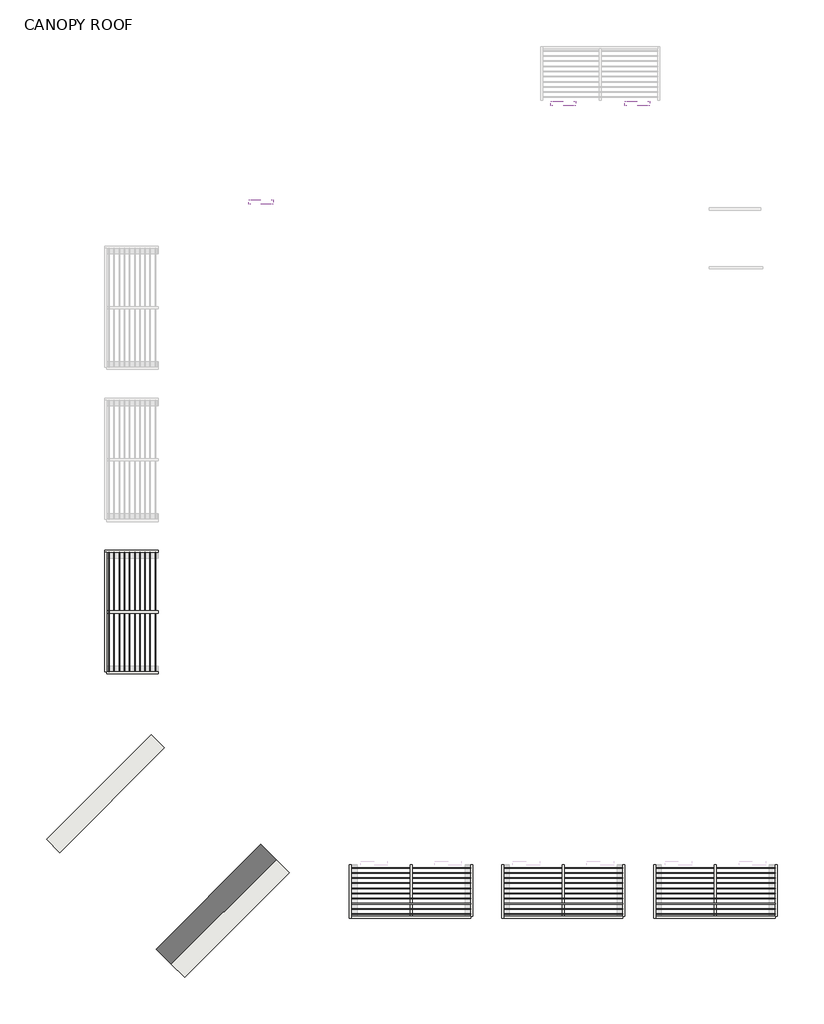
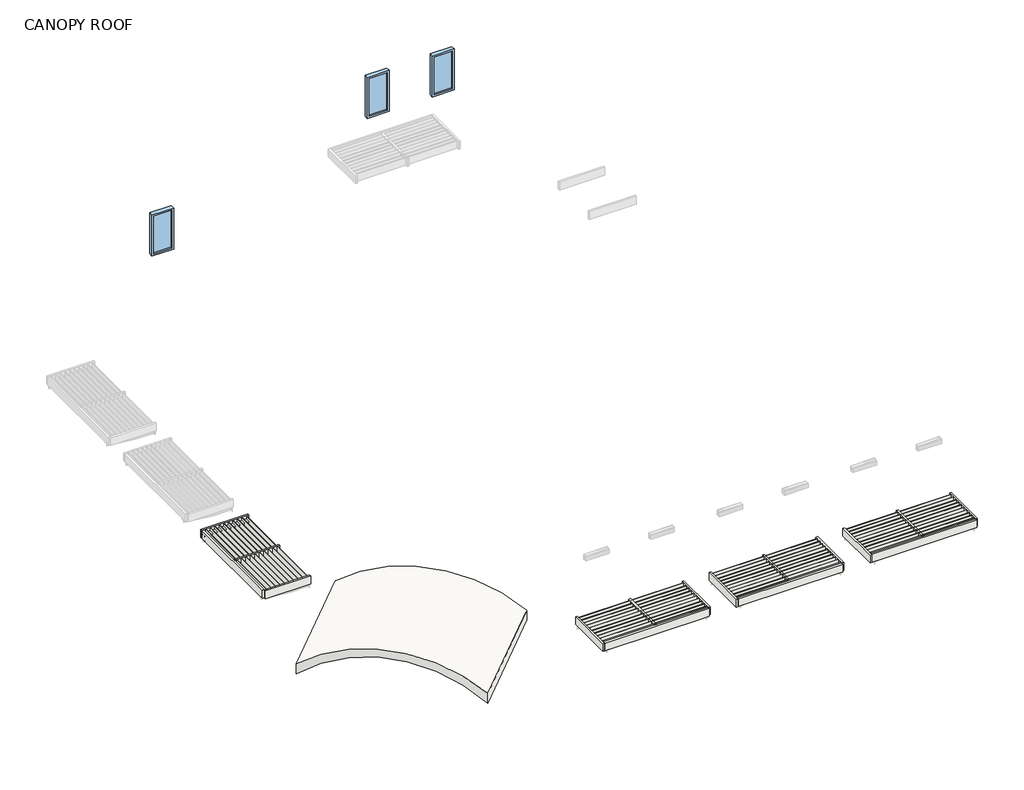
# One storey, part 1 of 2: 57 roofs, 3 windows.
"""IFC4 building model written with IfcOpenShell, lengths in millimetres."""

import ifcopenshell
import ifcopenshell.guid

model = None  # the IFC model being written
_history = None  # IfcOwnerHistory: only IFC2X3 demands one
_inside = {}  # id of a spatial element -> (the spatial element, [elements in it])
_under = {}  # id of a project, library or spatial element -> (it, [spatial elements below it])
_declared = {}  # id of a project -> (the project, [libraries it declares])
_typed = {}  # id of a type object -> (the type object, [elements of that type])
_made_of = {}  # id of a material, layer set ... -> (it, [elements and type objects made of it])


def new_model(schema):
    """Start an empty IFC model of exactly this schema.

    Asked for "IFC4X3", IfcOpenShell would pick the latest addendum, in which some entities
    have other attributes; the version numbers below select the first issue.
    IFC2X3 requires an IfcOwnerHistory on every rooted entity: one is made here for all.
    """
    global model, _history
    if schema == "IFC4X3":
        model = ifcopenshell.file(schema_version=(4, 3, 0, 0))
    else:
        model = ifcopenshell.file(schema=schema)
    _inside.clear()
    _under.clear()
    _declared.clear()
    _typed.clear()
    _made_of.clear()
    _history = None
    if model.schema == "IFC2X3":
        org = make("IfcOrganization", Name="unknown")
        user = make(
            "IfcPersonAndOrganization",
            ThePerson=make("IfcPerson", FamilyName="unknown"),
            TheOrganization=org,
        )
        app = make(
            "IfcApplication",
            ApplicationDeveloper=org,
            Version="unknown",
            ApplicationFullName="unknown",
            ApplicationIdentifier="unknown",
        )
        _history = make(
            "IfcOwnerHistory",
            OwningUser=user,
            OwningApplication=app,
            ChangeAction="ADDED",
            CreationDate=0,
        )
    return model


def make(cls, **values):
    """One entity of the class cls with the attributes given. An attribute that is None is left unset."""
    return model.create_entity(
        cls, **{name: value for name, value in values.items() if value is not None}
    )


def rooted(cls, **values):
    """An entity with a GlobalId (a new one), such as an element, a storey or a relation."""
    return make(cls, GlobalId=ifcopenshell.guid.new(), OwnerHistory=_history, **values)


def si_unit(unit_type, name, prefix=None):
    """IfcSIUnit, for example si_unit("LENGTHUNIT", "METRE", prefix="MILLI")."""
    return make("IfcSIUnit", UnitType=unit_type, Prefix=prefix, Name=name)


def assignment(units):
    """IfcUnitAssignment: the units of a project."""
    return None if units is None else make("IfcUnitAssignment", Units=units)


def point(xyz):
    """IfcCartesianPoint."""
    return None if xyz is None else make("IfcCartesianPoint", Coordinates=xyz)


def direction(xyz):
    """IfcDirection."""
    return None if xyz is None else make("IfcDirection", DirectionRatios=xyz)


def frame(location, z_axis=None, x_axis=None):
    """IfcAxis2Placement3D, a coordinate frame: its origin and axes. An axis left out is left unset."""
    return make(
        "IfcAxis2Placement3D",
        Location=point(location),
        Axis=direction(z_axis),
        RefDirection=direction(x_axis),
    )


def frame_2d(location, x_axis=None):
    """IfcAxis2Placement2D, a coordinate frame in the plane: its origin and x axis."""
    return make(
        "IfcAxis2Placement2D", Location=point(location), RefDirection=direction(x_axis)
    )


def origin():
    """The frame at (0, 0, 0) with its axes left unset."""
    return frame((0.0, 0.0, 0.0))


def place(relative_to, where):
    """IfcLocalPlacement: puts the frame where relative to a parent placement (None: the world)."""
    return make(
        "IfcLocalPlacement", PlacementRelTo=relative_to, RelativePlacement=where
    )


def context(
    kind, dimensions, precision=None, world=None, true_north=None, identifier=None
):
    """IfcGeometricRepresentationContext, for example the 3D "Model" context."""
    return make(
        "IfcGeometricRepresentationContext",
        ContextIdentifier=identifier,
        ContextType=kind,
        CoordinateSpaceDimension=dimensions,
        Precision=precision,
        WorldCoordinateSystem=world,
        TrueNorth=true_north,
    )


def project(units=None, contexts=None):
    """IfcProject with its units and contexts."""
    return rooted(
        "IfcProject",
        Name="project",
        RepresentationContexts=contexts,
        UnitsInContext=assignment(units),
    )


def spatial(cls, under=None, at=None, **own):
    """A site, building, storey or space (cls), placed at a placement, below another one or the project."""
    s = rooted(cls, ObjectPlacement=at, **own)
    if under is not None:
        _under.setdefault(under.id(), (under, []))[1].append(s)
    return s


def polyline(points):
    """IfcPolyline through the points."""
    return make("IfcPolyline", Points=[point(p) for p in points])


def circle_curve(where, radius):
    """IfcCircle in the frame where."""
    return make("IfcCircle", Position=where, Radius=radius)


def trimmed(basis, trim1, trim2, sense, master):
    """IfcTrimmedCurve: the piece of a basis curve between two trims."""
    return make(
        "IfcTrimmedCurve",
        BasisCurve=basis,
        Trim1=trim1,
        Trim2=trim2,
        SenseAgreement=sense,
        MasterRepresentation=master,
    )


def segment(curve, same_sense, transition):
    """IfcCompositeCurveSegment."""
    return make(
        "IfcCompositeCurveSegment",
        Transition=transition,
        SameSense=same_sense,
        ParentCurve=curve,
    )


def composite_curve(segments, self_intersect=None):
    """IfcCompositeCurve: segments joined end to end."""
    return make("IfcCompositeCurve", Segments=segments, SelfIntersect=self_intersect)


def outline(outer, holes=None, kind="AREA"):
    """IfcArbitraryClosedProfileDef: a profile drawn as a closed curve; with holes, ...WithVoids."""
    if holes is None:
        return make("IfcArbitraryClosedProfileDef", ProfileType=kind, OuterCurve=outer)
    return make(
        "IfcArbitraryProfileDefWithVoids",
        ProfileType=kind,
        OuterCurve=outer,
        InnerCurves=holes,
    )


def extrude(swept, where, along, depth):
    """IfcExtrudedAreaSolid: the profile swept, set in the frame where, extruded along a direction by depth."""
    return make(
        "IfcExtrudedAreaSolid",
        SweptArea=swept,
        Position=where,
        ExtrudedDirection=direction(along),
        Depth=depth,
    )


def shape(context_of_items, identifier, shape_type, items):
    """IfcShapeRepresentation: the items that make up one representation, for example the "Body"."""
    return make(
        "IfcShapeRepresentation",
        ContextOfItems=context_of_items,
        RepresentationIdentifier=identifier,
        RepresentationType=shape_type,
        Items=items,
    )


def source(mapping_origin, context_of_items, identifier, shape_type, items):
    """IfcRepresentationMap: a shape defined once, which mapped items show again and again."""
    return make(
        "IfcRepresentationMap",
        MappingOrigin=mapping_origin,
        MappedRepresentation=shape(context_of_items, identifier, shape_type, items),
    )


def transform(
    local_origin,
    x_axis=None,
    y_axis=None,
    z_axis=None,
    scale=None,
    scale2=None,
    scale3=None,
    uniform=True,
):
    """IfcCartesianTransformationOperator3D, or its non-uniform kind. x_axis, y_axis, z_axis: its Axis1, 2, 3."""
    if uniform:
        return make(
            "IfcCartesianTransformationOperator3D",
            Axis1=direction(x_axis),
            Axis2=direction(y_axis),
            LocalOrigin=point(local_origin),
            Scale=scale,
            Axis3=direction(z_axis),
        )
    return make(
        "IfcCartesianTransformationOperator3DnonUniform",
        Axis1=direction(x_axis),
        Axis2=direction(y_axis),
        LocalOrigin=point(local_origin),
        Scale=scale,
        Axis3=direction(z_axis),
        Scale2=scale2,
        Scale3=scale3,
    )


def mapped(mapping_source, mapping_target):
    """IfcMappedItem: shows the shape of a source again, moved by a transform."""
    return make(
        "IfcMappedItem", MappingSource=mapping_source, MappingTarget=mapping_target
    )


def made_of(thing, what):
    """Note that an element or type object is made of a material, layer set ...; save() writes the relation."""
    if what is not None:
        _made_of.setdefault(what.id(), (what, []))[1].append(thing)
    return thing


def element(
    cls,
    number,
    at=None,
    inside=None,
    cuts=None,
    type_object=None,
    material=None,
    context=None,
    identifier="Body",
    shape_type=None,
    held_by="IfcProductDefinitionShape",
    body=None,
    shapes=None,
    **own,
):
    """One element of the class cls, such as IfcWall. Its Tag is "e" and its number.

    at: its placement. inside: the storey or other place that contains it. cuts: it is an
    opening in that element (IfcRelVoidsElement). A single representation is given by context,
    identifier, shape_type and body (its items); several are given by shapes. held_by: the class
    of the entity that holds the representations. save() writes the other relations.
    """
    e = rooted(cls, Tag="e%d" % number, ObjectPlacement=at, **own)
    if body is not None:
        shapes = [shape(context, identifier, shape_type, body)]
    if shapes is not None:
        e.Representation = make(held_by, Representations=shapes)
    if inside is not None:
        _inside.setdefault(inside.id(), (inside, []))[1].append(e)
    if cuts is not None:
        rooted(
            "IfcRelVoidsElement", RelatingBuildingElement=cuts, RelatedOpeningElement=e
        )
    if type_object is not None:
        _typed.setdefault(type_object.id(), (type_object, []))[1].append(e)
    return made_of(e, material)


def aggregate(whole, parts):
    """IfcRelAggregates: a whole, such as a stair, and the parts it consists of."""
    return rooted("IfcRelAggregates", RelatingObject=whole, RelatedObjects=parts)


def save(model, path):
    """Write the relations noted so far, then the file.

    IfcRelAggregates (storeys below a building ...), IfcRelContainedInSpatialStructure (elements
    in a storey), IfcRelDefinesByType, IfcRelAssociatesMaterial and IfcRelDeclares: one each for
    every whole, place, type object, material and project.
    """
    for whole, parts in _under.values():
        aggregate(whole, parts)
    for where, things in _inside.values():
        rooted(
            "IfcRelContainedInSpatialStructure",
            RelatedElements=things,
            RelatingStructure=where,
        )
    for kind, things in _typed.values():
        rooted("IfcRelDefinesByType", RelatedObjects=things, RelatingType=kind)
    for what, things in _made_of.values():
        rooted("IfcRelAssociatesMaterial", RelatedObjects=things, RelatingMaterial=what)
    for by, libraries in _declared.values():
        rooted("IfcRelDeclares", RelatingContext=by, RelatedDefinitions=libraries)
    model.write(path)


def aluminum_exterior_window_single_3885_e2dbf674(model_context):
    return source(origin(), model_context, "Body", "SweptSolid", [
        extrude(outline(polyline([(-101.6, 109.1075246), (406.4, 109.1075246), (406.4, 83.7075246), (-101.6, 83.7075246), (-101.6, 109.1075246)])), frame((0.0, 0.0, 1066.8), z_axis=(0.0, 0.0, 1.0), x_axis=(1.0, 0.0, 0.0)), (0.0, 0.0, 1.0), 1117.6),
        extrude(outline(polyline([(2235.2, -152.4), (1016.0, -152.4), (1016.0, 457.2), (2235.2, 457.2), (2235.2, -152.4)]), holes=[polyline([(2184.4, -101.6), (2184.4, 406.4), (1066.8, 406.4), (1066.8, -101.6), (2184.4, -101.6)])]), frame((0.0, 39.2575246, 0.0), z_axis=(0.0, 1.0, 0.0), x_axis=(0.0, 0.0, 1.0)), (0.0, 0.0, 1.0), 114.3),
    ])


model = new_model("IFC4")

# Units and contexts
model_context = context("Model", 3, world=origin())
ifc_project = project(units=[si_unit("LENGTHUNIT", "METRE", prefix="MILLI")], contexts=[model_context])

# Site, building, storey
site = spatial("IfcSite", under=ifc_project)
building = spatial("IfcBuilding", under=site)
storey = spatial("IfcBuildingStorey", under=building, Name="CANOPY ROOF", Elevation=33832.8)

# Roofs
placement = place(None, origin())
element("IfcRoof", 1, ObjectType="Generic - 9\"", at=placement, inside=storey, context=model_context, shape_type="SweptSolid", body=[
    extrude(outline(polyline([(-12049.235253, -6257.7989595), (-12049.235253, -7579.1251112), (-12100.035253, -7579.1251112), (-12100.035253, -6257.7989595), (-12049.235253, -6257.7989595)])), frame((0.0, 0.0, 33680.4), z_axis=(0.0, 0.0, 1.0), x_axis=(1.0, 0.0, 0.0)), (0.0, 0.0, 1.0), 228.6),
])
element("IfcRoof", 2, ObjectType="Generic - 9\"", at=placement, inside=storey, context=model_context, shape_type="SweptSolid", body=[
    extrude(outline(polyline([(-9052.050493, -6257.7989595), (-9052.050493, -7527.7989595), (-9102.850493, -7527.7989595), (-9102.850493, -6257.7989595), (-9052.050493, -6257.7989595)])), frame((0.0, 0.0, 33680.4), z_axis=(0.0, 0.0, 1.0), x_axis=(1.0, 0.0, 0.0)), (0.0, 0.0, 1.0), 228.6),
])
element("IfcRoof", 3, ObjectType="Generic - 9\"", at=placement, inside=storey, context=model_context, shape_type="SweptSolid", body=[
    extrude(outline(polyline([(-10601.440333, -7527.7989595), (-10601.440333, -6257.7989595), (-10550.640333, -6257.7989595), (-10550.640333, -7527.7989595), (-10601.440333, -7527.7989595)])), frame((0.0, 0.0, 33680.4), z_axis=(0.0, 0.0, 1.0), x_axis=(1.0, 0.0, 0.0)), (0.0, 0.0, 1.0), 228.6),
])
element("IfcRoof", 4, ObjectType="Generic - 9\"", at=placement, inside=storey, context=model_context, shape_type="SweptSolid", body=[
    extrude(outline(polyline([(-12049.235253, -7337.2989595), (-9102.845413, -7337.2989595), (-9102.845413, -7349.9989595), (-12049.235253, -7349.9989595), (-12049.235253, -7337.2989595)])), frame((0.0, 0.0, 33680.4), z_axis=(0.0, 0.0, 1.0), x_axis=(1.0, 0.0, 0.0)), (0.0, 0.0, 1.0), 228.6),
])
element("IfcRoof", 5, ObjectType="Generic - 9\"", at=placement, inside=storey, context=model_context, shape_type="SweptSolid", body=[
    extrude(outline(polyline([(-12049.235253, -7464.2989595), (-9102.845413, -7464.2989595), (-9102.845413, -7476.9989595), (-12049.235253, -7476.9989595), (-12049.235253, -7464.2989595)])), frame((0.0, 0.0, 33680.4), z_axis=(0.0, 0.0, 1.0), x_axis=(1.0, 0.0, 0.0)), (0.0, 0.0, 1.0), 228.6),
])
element("IfcRoof", 6, ObjectType="Generic - 9\"", at=placement, inside=storey, context=model_context, shape_type="SweptSolid", body=[
    extrude(outline(polyline([(-12049.235253, -7527.7989595), (-9102.845413, -7527.7989595), (-9102.845413, -7579.1251112), (-12049.235253, -7579.1251112), (-12049.235253, -7527.7989595)])), frame((0.0, 0.0, 33680.4), z_axis=(0.0, 0.0, 1.0), x_axis=(1.0, 0.0, 0.0)), (0.0, 0.0, 1.0), 228.6),
])
element("IfcRoof", 7, ObjectType="Generic - 9\"", at=placement, inside=storey, context=model_context, shape_type="SweptSolid", body=[
    extrude(outline(composite_curve([segment(trimmed(circle_curve(frame_2d((0.0, -3950.7588984)), 3950.7588985), [point((3128.2466133, -1537.7588984))], [point((3128.2466133, -6363.7588985))], False, "CARTESIAN"), True, "CONTINUOUS"), segment(polyline([(3128.2466133, -6363.7588985), (2834.0603143, -6363.7588985)]), True, "CONTINUOUS"), segment(trimmed(circle_curve(frame_2d((0.0, -3950.7588984)), 3722.1588985), [point((2834.0603143, -6363.7588985))], [point((2834.0603143, -1537.7588984))], True, "CARTESIAN"), True, "CONTINUOUS"), segment(polyline([(2834.0603143, -1537.7588984), (3128.2466133, -1537.7588984)]), True, "CONTINUOUS")], self_intersect=False)), frame((-15081.7811653, -10125.0805729, 31613.0859867), z_axis=(0.707106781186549, 0.7071067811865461, 0.0), x_axis=(0.0, 0.0, 1.0)), (0.0, 0.0, 1.0), 3657.6),
])
element("IfcRoof", 8, ObjectType="Generic - 9\"", at=placement, inside=storey, context=model_context, shape_type="SweptSolid", body=[
    extrude(outline(polyline([(-12049.235253, -7210.2989595), (-9102.845413, -7210.2989595), (-9102.845413, -7222.9989595), (-12049.235253, -7222.9989595), (-12049.235253, -7210.2989595)])), frame((0.0, 0.0, 33680.4), z_axis=(0.0, 0.0, 1.0), x_axis=(1.0, 0.0, 0.0)), (0.0, 0.0, 1.0), 228.6),
])
element("IfcRoof", 9, ObjectType="Generic - 9\"", at=placement, inside=storey, context=model_context, shape_type="SweptSolid", body=[
    extrude(outline(polyline([(-12049.235253, -7083.2989595), (-9102.845413, -7083.2989595), (-9102.845413, -7095.9989595), (-12049.235253, -7095.9989595), (-12049.235253, -7083.2989595)])), frame((0.0, 0.0, 33680.4), z_axis=(0.0, 0.0, 1.0), x_axis=(1.0, 0.0, 0.0)), (0.0, 0.0, 1.0), 228.6),
])
element("IfcRoof", 10, ObjectType="Generic - 9\"", at=placement, inside=storey, context=model_context, shape_type="SweptSolid", body=[
    extrude(outline(polyline([(-12049.235253, -6956.2989595), (-9102.845413, -6956.2989595), (-9102.845413, -6968.9989595), (-12049.235253, -6968.9989595), (-12049.235253, -6956.2989595)])), frame((0.0, 0.0, 33680.4), z_axis=(0.0, 0.0, 1.0), x_axis=(1.0, 0.0, 0.0)), (0.0, 0.0, 1.0), 228.6),
])
element("IfcRoof", 11, ObjectType="Generic - 9\"", at=placement, inside=storey, context=model_context, shape_type="SweptSolid", body=[
    extrude(outline(polyline([(-12049.235253, -6829.2989595), (-9102.845413, -6829.2989595), (-9102.845413, -6841.9989595), (-12049.235253, -6841.9989595), (-12049.235253, -6829.2989595)])), frame((0.0, 0.0, 33680.4), z_axis=(0.0, 0.0, 1.0), x_axis=(1.0, 0.0, 0.0)), (0.0, 0.0, 1.0), 228.6),
])
element("IfcRoof", 12, ObjectType="Generic - 9\"", at=placement, inside=storey, context=model_context, shape_type="SweptSolid", body=[
    extrude(outline(polyline([(-12049.235253, -6702.2989595), (-9102.845413, -6702.2989595), (-9102.845413, -6714.9989595), (-12049.235253, -6714.9989595), (-12049.235253, -6702.2989595)])), frame((0.0, 0.0, 33680.4), z_axis=(0.0, 0.0, 1.0), x_axis=(1.0, 0.0, 0.0)), (0.0, 0.0, 1.0), 228.6),
])
element("IfcRoof", 13, ObjectType="Generic - 9\"", at=placement, inside=storey, context=model_context, shape_type="SweptSolid", body=[
    extrude(outline(polyline([(-12049.235253, -6575.2989595), (-9102.845413, -6575.2989595), (-9102.845413, -6587.9989595), (-12049.235253, -6587.9989595), (-12049.235253, -6575.2989595)])), frame((0.0, 0.0, 33680.4), z_axis=(0.0, 0.0, 1.0), x_axis=(1.0, 0.0, 0.0)), (0.0, 0.0, 1.0), 228.6),
])
element("IfcRoof", 14, ObjectType="Generic - 9\"", at=placement, inside=storey, context=model_context, shape_type="SweptSolid", body=[
    extrude(outline(polyline([(-12049.235253, -6448.2989595), (-9102.845413, -6448.2989595), (-9102.845413, -6460.9989595), (-12049.235253, -6460.9989595), (-12049.235253, -6448.2989595)])), frame((0.0, 0.0, 33680.4), z_axis=(0.0, 0.0, 1.0), x_axis=(1.0, 0.0, 0.0)), (0.0, 0.0, 1.0), 228.6),
])
element("IfcRoof", 15, ObjectType="Generic - 9\"", at=placement, inside=storey, context=model_context, shape_type="SweptSolid", body=[
    extrude(outline(polyline([(-12049.235253, -6321.2989595), (-9102.845413, -6321.2989595), (-9102.845413, -6333.9989595), (-12049.235253, -6333.9989595), (-12049.235253, -6321.2989595)])), frame((0.0, 0.0, 33680.4), z_axis=(0.0, 0.0, 1.0), x_axis=(1.0, 0.0, 0.0)), (0.0, 0.0, 1.0), 228.6),
])
element("IfcRoof", 16, ObjectType="Generic - 9\"", at=placement, inside=storey, context=model_context, shape_type="SweptSolid", body=[
    extrude(outline(polyline([(-8290.045413, -6257.7989595), (-8290.045413, -7579.1251112), (-8340.845413, -7579.1251112), (-8340.845413, -6257.7989595), (-8290.045413, -6257.7989595)])), frame((0.0, 0.0, 33680.4), z_axis=(0.0, 0.0, 1.0), x_axis=(1.0, 0.0, 0.0)), (0.0, 0.0, 1.0), 228.6),
])
element("IfcRoof", 17, ObjectType="Generic - 9\"", at=placement, inside=storey, context=model_context, shape_type="SweptSolid", body=[
    extrude(outline(polyline([(-5292.860653, -6257.7989595), (-5292.860653, -7527.7989595), (-5343.660653, -7527.7989595), (-5343.660653, -6257.7989595), (-5292.860653, -6257.7989595)])), frame((0.0, 0.0, 33680.4), z_axis=(0.0, 0.0, 1.0), x_axis=(1.0, 0.0, 0.0)), (0.0, 0.0, 1.0), 228.6),
])
element("IfcRoof", 18, ObjectType="Generic - 9\"", at=placement, inside=storey, context=model_context, shape_type="SweptSolid", body=[
    extrude(outline(polyline([(-6842.250493, -7527.7989595), (-6842.250493, -6257.7989595), (-6791.450493, -6257.7989595), (-6791.450493, -7527.7989595), (-6842.250493, -7527.7989595)])), frame((0.0, 0.0, 33680.4), z_axis=(0.0, 0.0, 1.0), x_axis=(1.0, 0.0, 0.0)), (0.0, 0.0, 1.0), 228.6),
])
element("IfcRoof", 19, ObjectType="Generic - 9\"", at=placement, inside=storey, context=model_context, shape_type="SweptSolid", body=[
    extrude(outline(polyline([(-8290.045413, -7337.2989595), (-5343.655573, -7337.2989595), (-5343.655573, -7349.9989595), (-8290.045413, -7349.9989595), (-8290.045413, -7337.2989595)])), frame((0.0, 0.0, 33680.4), z_axis=(0.0, 0.0, 1.0), x_axis=(1.0, 0.0, 0.0)), (0.0, 0.0, 1.0), 228.6),
])
element("IfcRoof", 20, ObjectType="Generic - 9\"", at=placement, inside=storey, context=model_context, shape_type="SweptSolid", body=[
    extrude(outline(polyline([(-8290.045413, -7464.2989595), (-5343.655573, -7464.2989595), (-5343.655573, -7476.9989595), (-8290.045413, -7476.9989595), (-8290.045413, -7464.2989595)])), frame((0.0, 0.0, 33680.4), z_axis=(0.0, 0.0, 1.0), x_axis=(1.0, 0.0, 0.0)), (0.0, 0.0, 1.0), 228.6),
])
element("IfcRoof", 21, ObjectType="Generic - 9\"", at=placement, inside=storey, context=model_context, shape_type="SweptSolid", body=[
    extrude(outline(polyline([(-8290.045413, -7527.7989595), (-5343.655573, -7527.7989595), (-5343.655573, -7579.1251112), (-8290.045413, -7579.1251112), (-8290.045413, -7527.7989595)])), frame((0.0, 0.0, 33680.4), z_axis=(0.0, 0.0, 1.0), x_axis=(1.0, 0.0, 0.0)), (0.0, 0.0, 1.0), 228.6),
])
element("IfcRoof", 22, ObjectType="Generic - 9\"", at=placement, inside=storey, context=model_context, shape_type="SweptSolid", body=[
    extrude(outline(polyline([(-8290.045413, -7210.2989595), (-5343.655573, -7210.2989595), (-5343.655573, -7222.9989595), (-8290.045413, -7222.9989595), (-8290.045413, -7210.2989595)])), frame((0.0, 0.0, 33680.4), z_axis=(0.0, 0.0, 1.0), x_axis=(1.0, 0.0, 0.0)), (0.0, 0.0, 1.0), 228.6),
])
element("IfcRoof", 23, ObjectType="Generic - 9\"", at=placement, inside=storey, context=model_context, shape_type="SweptSolid", body=[
    extrude(outline(polyline([(-8290.045413, -7083.2989595), (-5343.655573, -7083.2989595), (-5343.655573, -7095.9989595), (-8290.045413, -7095.9989595), (-8290.045413, -7083.2989595)])), frame((0.0, 0.0, 33680.4), z_axis=(0.0, 0.0, 1.0), x_axis=(1.0, 0.0, 0.0)), (0.0, 0.0, 1.0), 228.6),
])
element("IfcRoof", 24, ObjectType="Generic - 9\"", at=placement, inside=storey, context=model_context, shape_type="SweptSolid", body=[
    extrude(outline(polyline([(-8290.045413, -6956.2989595), (-5343.655573, -6956.2989595), (-5343.655573, -6968.9989595), (-8290.045413, -6968.9989595), (-8290.045413, -6956.2989595)])), frame((0.0, 0.0, 33680.4), z_axis=(0.0, 0.0, 1.0), x_axis=(1.0, 0.0, 0.0)), (0.0, 0.0, 1.0), 228.6),
])
element("IfcRoof", 25, ObjectType="Generic - 9\"", at=placement, inside=storey, context=model_context, shape_type="SweptSolid", body=[
    extrude(outline(polyline([(-8290.045413, -6829.2989595), (-5343.655573, -6829.2989595), (-5343.655573, -6841.9989595), (-8290.045413, -6841.9989595), (-8290.045413, -6829.2989595)])), frame((0.0, 0.0, 33680.4), z_axis=(0.0, 0.0, 1.0), x_axis=(1.0, 0.0, 0.0)), (0.0, 0.0, 1.0), 228.6),
])
element("IfcRoof", 26, ObjectType="Generic - 9\"", at=placement, inside=storey, context=model_context, shape_type="SweptSolid", body=[
    extrude(outline(polyline([(-8290.045413, -6702.2989595), (-5343.655573, -6702.2989595), (-5343.655573, -6714.9989595), (-8290.045413, -6714.9989595), (-8290.045413, -6702.2989595)])), frame((0.0, 0.0, 33680.4), z_axis=(0.0, 0.0, 1.0), x_axis=(1.0, 0.0, 0.0)), (0.0, 0.0, 1.0), 228.6),
])
element("IfcRoof", 27, ObjectType="Generic - 9\"", at=placement, inside=storey, context=model_context, shape_type="SweptSolid", body=[
    extrude(outline(polyline([(-8290.045413, -6575.2989595), (-5343.655573, -6575.2989595), (-5343.655573, -6587.9989595), (-8290.045413, -6587.9989595), (-8290.045413, -6575.2989595)])), frame((0.0, 0.0, 33680.4), z_axis=(0.0, 0.0, 1.0), x_axis=(1.0, 0.0, 0.0)), (0.0, 0.0, 1.0), 228.6),
])
element("IfcRoof", 28, ObjectType="Generic - 9\"", at=placement, inside=storey, context=model_context, shape_type="SweptSolid", body=[
    extrude(outline(polyline([(-8290.045413, -6448.2989595), (-5343.655573, -6448.2989595), (-5343.655573, -6460.9989595), (-8290.045413, -6460.9989595), (-8290.045413, -6448.2989595)])), frame((0.0, 0.0, 33680.4), z_axis=(0.0, 0.0, 1.0), x_axis=(1.0, 0.0, 0.0)), (0.0, 0.0, 1.0), 228.6),
])
element("IfcRoof", 29, ObjectType="Generic - 9\"", at=placement, inside=storey, context=model_context, shape_type="SweptSolid", body=[
    extrude(outline(polyline([(-8290.045413, -6321.2989595), (-5343.655573, -6321.2989595), (-5343.655573, -6333.9989595), (-8290.045413, -6333.9989595), (-8290.045413, -6321.2989595)])), frame((0.0, 0.0, 33680.4), z_axis=(0.0, 0.0, 1.0), x_axis=(1.0, 0.0, 0.0)), (0.0, 0.0, 1.0), 228.6),
])
element("IfcRoof", 30, ObjectType="Generic - 9\"", at=placement, inside=storey, context=model_context, shape_type="SweptSolid", body=[
    extrude(outline(polyline([(-4530.855573, -6257.7989595), (-4530.855573, -7579.1251112), (-4581.655573, -7579.1251112), (-4581.655573, -6257.7989595), (-4530.855573, -6257.7989595)])), frame((0.0, 0.0, 33680.4), z_axis=(0.0, 0.0, 1.0), x_axis=(1.0, 0.0, 0.0)), (0.0, 0.0, 1.0), 228.6),
])
element("IfcRoof", 31, ObjectType="Generic - 9\"", at=placement, inside=storey, context=model_context, shape_type="SweptSolid", body=[
    extrude(outline(polyline([(-1533.670813, -6257.7989595), (-1533.670813, -7527.7989595), (-1584.470813, -7527.7989595), (-1584.470813, -6257.7989595), (-1533.670813, -6257.7989595)])), frame((0.0, 0.0, 33680.4), z_axis=(0.0, 0.0, 1.0), x_axis=(1.0, 0.0, 0.0)), (0.0, 0.0, 1.0), 228.6),
])
element("IfcRoof", 32, ObjectType="Generic - 9\"", at=placement, inside=storey, context=model_context, shape_type="SweptSolid", body=[
    extrude(outline(polyline([(-3083.060653, -7527.7989595), (-3083.060653, -6257.7989595), (-3032.260653, -6257.7989595), (-3032.260653, -7527.7989595), (-3083.060653, -7527.7989595)])), frame((0.0, 0.0, 33680.4), z_axis=(0.0, 0.0, 1.0), x_axis=(1.0, 0.0, 0.0)), (0.0, 0.0, 1.0), 228.6),
])
element("IfcRoof", 33, ObjectType="Generic - 9\"", at=placement, inside=storey, context=model_context, shape_type="SweptSolid", body=[
    extrude(outline(polyline([(-4530.855573, -7337.2989595), (-1584.465733, -7337.2989595), (-1584.465733, -7349.9989595), (-4530.855573, -7349.9989595), (-4530.855573, -7337.2989595)])), frame((0.0, 0.0, 33680.4), z_axis=(0.0, 0.0, 1.0), x_axis=(1.0, 0.0, 0.0)), (0.0, 0.0, 1.0), 228.6),
])
element("IfcRoof", 34, ObjectType="Generic - 9\"", at=placement, inside=storey, context=model_context, shape_type="SweptSolid", body=[
    extrude(outline(polyline([(-4530.855573, -7464.2989595), (-1584.465733, -7464.2989595), (-1584.465733, -7476.9989595), (-4530.855573, -7476.9989595), (-4530.855573, -7464.2989595)])), frame((0.0, 0.0, 33680.4), z_axis=(0.0, 0.0, 1.0), x_axis=(1.0, 0.0, 0.0)), (0.0, 0.0, 1.0), 228.6),
])
element("IfcRoof", 35, ObjectType="Generic - 9\"", at=placement, inside=storey, context=model_context, shape_type="SweptSolid", body=[
    extrude(outline(polyline([(-4530.855573, -7527.7989595), (-1584.465733, -7527.7989595), (-1584.465733, -7579.1251112), (-4530.855573, -7579.1251112), (-4530.855573, -7527.7989595)])), frame((0.0, 0.0, 33680.4), z_axis=(0.0, 0.0, 1.0), x_axis=(1.0, 0.0, 0.0)), (0.0, 0.0, 1.0), 228.6),
])
element("IfcRoof", 36, ObjectType="Generic - 9\"", at=placement, inside=storey, context=model_context, shape_type="SweptSolid", body=[
    extrude(outline(polyline([(-4530.855573, -7210.2989595), (-1584.465733, -7210.2989595), (-1584.465733, -7222.9989595), (-4530.855573, -7222.9989595), (-4530.855573, -7210.2989595)])), frame((0.0, 0.0, 33680.4), z_axis=(0.0, 0.0, 1.0), x_axis=(1.0, 0.0, 0.0)), (0.0, 0.0, 1.0), 228.6),
])
element("IfcRoof", 37, ObjectType="Generic - 9\"", at=placement, inside=storey, context=model_context, shape_type="SweptSolid", body=[
    extrude(outline(polyline([(-4530.855573, -7083.2989595), (-1584.465733, -7083.2989595), (-1584.465733, -7095.9989595), (-4530.855573, -7095.9989595), (-4530.855573, -7083.2989595)])), frame((0.0, 0.0, 33680.4), z_axis=(0.0, 0.0, 1.0), x_axis=(1.0, 0.0, 0.0)), (0.0, 0.0, 1.0), 228.6),
])
element("IfcRoof", 38, ObjectType="Generic - 9\"", at=placement, inside=storey, context=model_context, shape_type="SweptSolid", body=[
    extrude(outline(polyline([(-4530.855573, -6956.2989595), (-1584.465733, -6956.2989595), (-1584.465733, -6968.9989595), (-4530.855573, -6968.9989595), (-4530.855573, -6956.2989595)])), frame((0.0, 0.0, 33680.4), z_axis=(0.0, 0.0, 1.0), x_axis=(1.0, 0.0, 0.0)), (0.0, 0.0, 1.0), 228.6),
])
element("IfcRoof", 39, ObjectType="Generic - 9\"", at=placement, inside=storey, context=model_context, shape_type="SweptSolid", body=[
    extrude(outline(polyline([(-4530.855573, -6829.2989595), (-1584.465733, -6829.2989595), (-1584.465733, -6841.9989595), (-4530.855573, -6841.9989595), (-4530.855573, -6829.2989595)])), frame((0.0, 0.0, 33680.4), z_axis=(0.0, 0.0, 1.0), x_axis=(1.0, 0.0, 0.0)), (0.0, 0.0, 1.0), 228.6),
])
element("IfcRoof", 40, ObjectType="Generic - 9\"", at=placement, inside=storey, context=model_context, shape_type="SweptSolid", body=[
    extrude(outline(polyline([(-4530.855573, -6702.2989595), (-1584.465733, -6702.2989595), (-1584.465733, -6714.9989595), (-4530.855573, -6714.9989595), (-4530.855573, -6702.2989595)])), frame((0.0, 0.0, 33680.4), z_axis=(0.0, 0.0, 1.0), x_axis=(1.0, 0.0, 0.0)), (0.0, 0.0, 1.0), 228.6),
])
element("IfcRoof", 41, ObjectType="Generic - 9\"", at=placement, inside=storey, context=model_context, shape_type="SweptSolid", body=[
    extrude(outline(polyline([(-4530.855573, -6575.2989595), (-1584.465733, -6575.2989595), (-1584.465733, -6587.9989595), (-4530.855573, -6587.9989595), (-4530.855573, -6575.2989595)])), frame((0.0, 0.0, 33680.4), z_axis=(0.0, 0.0, 1.0), x_axis=(1.0, 0.0, 0.0)), (0.0, 0.0, 1.0), 228.6),
])
element("IfcRoof", 42, ObjectType="Generic - 9\"", at=placement, inside=storey, context=model_context, shape_type="SweptSolid", body=[
    extrude(outline(polyline([(-4530.855573, -6448.2989595), (-1584.465733, -6448.2989595), (-1584.465733, -6460.9989595), (-4530.855573, -6460.9989595), (-4530.855573, -6448.2989595)])), frame((0.0, 0.0, 33680.4), z_axis=(0.0, 0.0, 1.0), x_axis=(1.0, 0.0, 0.0)), (0.0, 0.0, 1.0), 228.6),
])
element("IfcRoof", 43, ObjectType="Generic - 9\"", at=placement, inside=storey, context=model_context, shape_type="SweptSolid", body=[
    extrude(outline(polyline([(-4530.855573, -6321.2989595), (-1584.465733, -6321.2989595), (-1584.465733, -6333.9989595), (-4530.855573, -6333.9989595), (-4530.855573, -6321.2989595)])), frame((0.0, 0.0, 33680.4), z_axis=(0.0, 0.0, 1.0), x_axis=(1.0, 0.0, 0.0)), (0.0, 0.0, 1.0), 228.6),
])
element("IfcRoof", 44, ObjectType="Generic - 9\"", at=placement, inside=storey, context=model_context, shape_type="SweptSolid", body=[
    extrude(outline(polyline([(-16824.435253, 1463.7908805), (-18145.7614047, 1463.7908805), (-18145.7614047, 1514.5908805), (-16824.435253, 1514.5908805), (-16824.435253, 1463.7908805)])), frame((0.0, 0.0, 33680.4), z_axis=(0.0, 0.0, 1.0), x_axis=(1.0, 0.0, 0.0)), (0.0, 0.0, 1.0), 228.6),
])
element("IfcRoof", 45, ObjectType="Generic - 9\"", at=placement, inside=storey, context=model_context, shape_type="SweptSolid", body=[
    extrude(outline(polyline([(-16824.435253, -1533.3938795), (-18094.435253, -1533.3938795), (-18094.435253, -1482.5938795), (-16824.435253, -1482.5938795), (-16824.435253, -1533.3938795)])), frame((0.0, 0.0, 33680.4), z_axis=(0.0, 0.0, 1.0), x_axis=(1.0, 0.0, 0.0)), (0.0, 0.0, 1.0), 228.6),
])
element("IfcRoof", 46, ObjectType="Generic - 9\"", at=placement, inside=storey, context=model_context, shape_type="SweptSolid", body=[
    extrude(outline(polyline([(-18094.435253, 15.9959605), (-16824.435253, 15.9959605), (-16824.435253, -34.8040395), (-18094.435253, -34.8040395), (-18094.435253, 15.9959605)])), frame((0.0, 0.0, 33680.4), z_axis=(0.0, 0.0, 1.0), x_axis=(1.0, 0.0, 0.0)), (0.0, 0.0, 1.0), 228.6),
])
element("IfcRoof", 47, ObjectType="Generic - 9\"", at=placement, inside=storey, context=model_context, shape_type="SweptSolid", body=[
    extrude(outline(polyline([(-17903.935253, 1463.7908805), (-17903.935253, -1482.5989595), (-17916.635253, -1482.5989595), (-17916.635253, 1463.7908805), (-17903.935253, 1463.7908805)])), frame((0.0, 0.0, 33680.4), z_axis=(0.0, 0.0, 1.0), x_axis=(1.0, 0.0, 0.0)), (0.0, 0.0, 1.0), 228.6),
])
element("IfcRoof", 48, ObjectType="Generic - 9\"", at=placement, inside=storey, context=model_context, shape_type="SweptSolid", body=[
    extrude(outline(polyline([(-18030.935253, 1463.7908805), (-18030.935253, -1482.5989595), (-18043.635253, -1482.5989595), (-18043.635253, 1463.7908805), (-18030.935253, 1463.7908805)])), frame((0.0, 0.0, 33680.4), z_axis=(0.0, 0.0, 1.0), x_axis=(1.0, 0.0, 0.0)), (0.0, 0.0, 1.0), 228.6),
])
element("IfcRoof", 49, ObjectType="Generic - 9\"", at=placement, inside=storey, context=model_context, shape_type="SweptSolid", body=[
    extrude(outline(polyline([(-18094.435253, 1463.7908805), (-18094.435253, -1482.5989595), (-18145.7614047, -1482.5989595), (-18145.7614047, 1463.7908805), (-18094.435253, 1463.7908805)])), frame((0.0, 0.0, 33680.4), z_axis=(0.0, 0.0, 1.0), x_axis=(1.0, 0.0, 0.0)), (0.0, 0.0, 1.0), 228.6),
])
element("IfcRoof", 50, ObjectType="Generic - 9\"", at=placement, inside=storey, context=model_context, shape_type="SweptSolid", body=[
    extrude(outline(polyline([(-17776.935253, 1463.7908805), (-17776.935253, -1482.5989595), (-17789.635253, -1482.5989595), (-17789.635253, 1463.7908805), (-17776.935253, 1463.7908805)])), frame((0.0, 0.0, 33680.4), z_axis=(0.0, 0.0, 1.0), x_axis=(1.0, 0.0, 0.0)), (0.0, 0.0, 1.0), 228.6),
])
element("IfcRoof", 51, ObjectType="Generic - 9\"", at=placement, inside=storey, context=model_context, shape_type="SweptSolid", body=[
    extrude(outline(polyline([(-17649.935253, 1463.7908805), (-17649.935253, -1482.5989595), (-17662.635253, -1482.5989595), (-17662.635253, 1463.7908805), (-17649.935253, 1463.7908805)])), frame((0.0, 0.0, 33680.4), z_axis=(0.0, 0.0, 1.0), x_axis=(1.0, 0.0, 0.0)), (0.0, 0.0, 1.0), 228.6),
])
element("IfcRoof", 52, ObjectType="Generic - 9\"", at=placement, inside=storey, context=model_context, shape_type="SweptSolid", body=[
    extrude(outline(polyline([(-17522.935253, 1463.7908805), (-17522.935253, -1482.5989595), (-17535.635253, -1482.5989595), (-17535.635253, 1463.7908805), (-17522.935253, 1463.7908805)])), frame((0.0, 0.0, 33680.4), z_axis=(0.0, 0.0, 1.0), x_axis=(1.0, 0.0, 0.0)), (0.0, 0.0, 1.0), 228.6),
])
element("IfcRoof", 53, ObjectType="Generic - 9\"", at=placement, inside=storey, context=model_context, shape_type="SweptSolid", body=[
    extrude(outline(polyline([(-17395.935253, 1463.7908805), (-17395.935253, -1482.5989595), (-17408.635253, -1482.5989595), (-17408.635253, 1463.7908805), (-17395.935253, 1463.7908805)])), frame((0.0, 0.0, 33680.4), z_axis=(0.0, 0.0, 1.0), x_axis=(1.0, 0.0, 0.0)), (0.0, 0.0, 1.0), 228.6),
])
element("IfcRoof", 54, ObjectType="Generic - 9\"", at=placement, inside=storey, context=model_context, shape_type="SweptSolid", body=[
    extrude(outline(polyline([(-17268.935253, 1463.7908805), (-17268.935253, -1482.5989595), (-17281.635253, -1482.5989595), (-17281.635253, 1463.7908805), (-17268.935253, 1463.7908805)])), frame((0.0, 0.0, 33680.4), z_axis=(0.0, 0.0, 1.0), x_axis=(1.0, 0.0, 0.0)), (0.0, 0.0, 1.0), 228.6),
])
element("IfcRoof", 55, ObjectType="Generic - 9\"", at=placement, inside=storey, context=model_context, shape_type="SweptSolid", body=[
    extrude(outline(polyline([(-17141.935253, 1463.7908805), (-17141.935253, -1482.5989595), (-17154.635253, -1482.5989595), (-17154.635253, 1463.7908805), (-17141.935253, 1463.7908805)])), frame((0.0, 0.0, 33680.4), z_axis=(0.0, 0.0, 1.0), x_axis=(1.0, 0.0, 0.0)), (0.0, 0.0, 1.0), 228.6),
])
element("IfcRoof", 56, ObjectType="Generic - 9\"", at=placement, inside=storey, context=model_context, shape_type="SweptSolid", body=[
    extrude(outline(polyline([(-17014.935253, 1463.7908805), (-17014.935253, -1482.5989595), (-17027.635253, -1482.5989595), (-17027.635253, 1463.7908805), (-17014.935253, 1463.7908805)])), frame((0.0, 0.0, 33680.4), z_axis=(0.0, 0.0, 1.0), x_axis=(1.0, 0.0, 0.0)), (0.0, 0.0, 1.0), 228.6),
])
element("IfcRoof", 57, ObjectType="Generic - 9\"", at=placement, inside=storey, context=model_context, shape_type="SweptSolid", body=[
    extrude(outline(polyline([(-16887.935253, 1463.7908805), (-16887.935253, -1482.5989595), (-16900.635253, -1482.5989595), (-16900.635253, 1463.7908805), (-16887.935253, 1463.7908805)])), frame((0.0, 0.0, 33680.4), z_axis=(0.0, 0.0, 1.0), x_axis=(1.0, 0.0, 0.0)), (0.0, 0.0, 1.0), 228.6),
])

# Windows
aluminum_exterior_window_single_3885_shape = aluminum_exterior_window_single_3885_e2dbf674(model_context)
element("IfcWindow", 58, ObjectType="Aluminum_Exterior_Window_-_Single_3885 : 24\"W. x 48\"H.", at=placement, inside=storey, context=model_context, shape_type="MappedRepresentation", body=[
    mapped(aluminum_exterior_window_single_3885_shape, transform((-14436.835253, 10022.4435159, 34594.8), x_axis=(1.0, 0.0, 0.0), y_axis=(0.0, 1.0, 0.0), z_axis=(0.0, 0.0, 1.0))),
])
element("IfcWindow", 59, ObjectType="Aluminum_Exterior_Window_-_Single_3885 : 24\"W. x 48\"H.", at=placement, inside=storey, context=model_context, shape_type="MappedRepresentation", body=[
    mapped(aluminum_exterior_window_single_3885_shape, transform((-6969.235253, 12460.8435159, 34594.8), x_axis=(1.0, 0.0, 0.0), y_axis=(0.0, 1.0, 0.0), z_axis=(0.0, 0.0, 1.0))),
])
element("IfcWindow", 60, ObjectType="Aluminum_Exterior_Window_-_Single_3885 : 24\"W. x 48\"H.", at=placement, inside=storey, context=model_context, shape_type="MappedRepresentation", body=[
    mapped(aluminum_exterior_window_single_3885_shape, transform((-5140.435253, 12460.8435159, 34594.8), x_axis=(1.0, 0.0, 0.0), y_axis=(0.0, 1.0, 0.0), z_axis=(0.0, 0.0, 1.0))),
])

save(model, "model.ifc")
